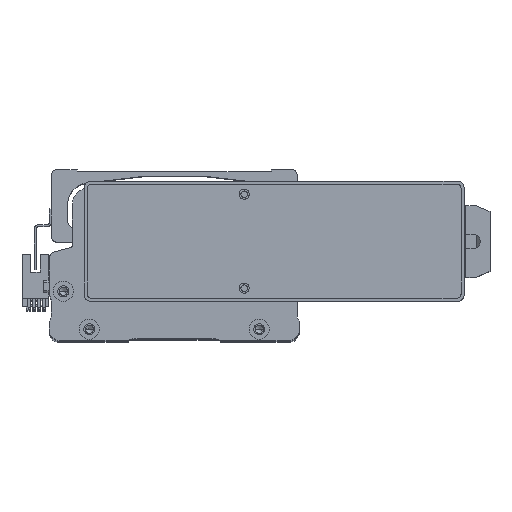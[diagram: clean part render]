
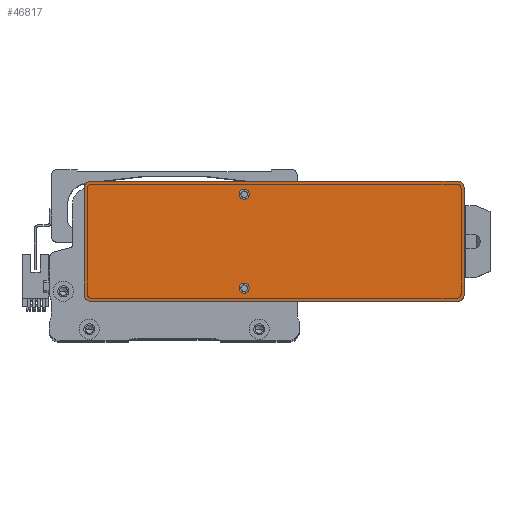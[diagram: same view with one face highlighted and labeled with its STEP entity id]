
A CAD part, top view. The second image highlights one B-rep face of the part: STEP entity #46817.
In plain terms, the highlighted planar face has unit normal (0, 0, 1) as drawn and (0, 0, -1) by its records, which use the part's own axes.
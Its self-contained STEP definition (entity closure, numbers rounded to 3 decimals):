
#416 = ORIENTED_EDGE ( 'NONE', *, *, #46741, .F. ) ;
#505 = LINE ( 'NONE', #41059, #55560 ) ;
#1887 = EDGE_LOOP ( 'NONE', ( #43734, #15833, #68502, #22342, #416, #38039, #27352, #52867 ) ) ;
#2065 = EDGE_CURVE ( 'NONE', #47108, #20162, #505, .T. ) ;
#4045 = CARTESIAN_POINT ( 'NONE',  ( 95., 27., 0. ) ) ;
#4075 = CIRCLE ( 'NONE', #60050, 3. ) ;
#4440 = CIRCLE ( 'NONE', #34104, 2.5 ) ;
#4656 = CARTESIAN_POINT ( 'NONE',  ( 95., 30., 0. ) ) ;
#6669 = LINE ( 'NONE', #65492, #20634 ) ;
#7952 = CARTESIAN_POINT ( 'NONE',  ( -92., -30., 0. ) ) ;
#8095 = EDGE_CURVE ( 'NONE', #63179, #68808, #6669, .T. ) ;
#11377 = DIRECTION ( 'NONE',  ( 0., 0., -1. ) ) ;
#11428 = CARTESIAN_POINT ( 'NONE',  ( -12.5, 23.5, 0. ) ) ;
#11706 = AXIS2_PLACEMENT_3D ( 'NONE', #47898, #12229, #53893 ) ;
#12229 = DIRECTION ( 'NONE',  ( 0., 0., -1. ) ) ;
#14307 = DIRECTION ( 'NONE',  ( 0., 0., -1. ) ) ;
#14617 = CARTESIAN_POINT ( 'NONE',  ( -17.5, -23.5, 0. ) ) ;
#15412 = VERTEX_POINT ( 'NONE', #18407 ) ;
#15475 = VECTOR ( 'NONE', #20276, 1000. ) ;
#15682 = CARTESIAN_POINT ( 'NONE',  ( -15., -23.5, 0. ) ) ;
#15833 = ORIENTED_EDGE ( 'NONE', *, *, #42345, .T. ) ;
#17045 = CARTESIAN_POINT ( 'NONE',  ( -95., -27., 0. ) ) ;
#17083 = CARTESIAN_POINT ( 'NONE',  ( -92., 30., 0. ) ) ;
#17642 = CARTESIAN_POINT ( 'NONE',  ( 92., 30., 0. ) ) ;
#18275 = VERTEX_POINT ( 'NONE', #17045 ) ;
#18407 = CARTESIAN_POINT ( 'NONE',  ( -95., 27., 0. ) ) ;
#19195 = DIRECTION ( 'NONE',  ( 0., 0., -1. ) ) ;
#19636 = EDGE_CURVE ( 'NONE', #26798, #31334, #23585, .T. ) ;
#20162 = VERTEX_POINT ( 'NONE', #4045 ) ;
#20276 = DIRECTION ( 'NONE',  ( 0., -1., 0. ) ) ;
#20634 = VECTOR ( 'NONE', #59475, 1000. ) ;
#20799 = CARTESIAN_POINT ( 'NONE',  ( 0., 0., 0. ) ) ;
#21667 = DIRECTION ( 'NONE',  ( -1., 0., 0. ) ) ;
#22342 = ORIENTED_EDGE ( 'NONE', *, *, #39237, .T. ) ;
#23585 = LINE ( 'NONE', #4656, #37576 ) ;
#26505 = DIRECTION ( 'NONE',  ( 0., 0., -1. ) ) ;
#26655 = VERTEX_POINT ( 'NONE', #63794 ) ;
#26798 = VERTEX_POINT ( 'NONE', #17642 ) ;
#27289 = CARTESIAN_POINT ( 'NONE',  ( 92., -30., 0. ) ) ;
#27352 = ORIENTED_EDGE ( 'NONE', *, *, #19636, .F. ) ;
#30661 = CIRCLE ( 'NONE', #37595, 2.5 ) ;
#31321 = LINE ( 'NONE', #61739, #15475 ) ;
#31334 = VERTEX_POINT ( 'NONE', #17083 ) ;
#31361 = CARTESIAN_POINT ( 'NONE',  ( -15., 23.5, 0. ) ) ;
#31791 = EDGE_CURVE ( 'NONE', #26655, #62146, #30661, .T. ) ;
#32232 = CARTESIAN_POINT ( 'NONE',  ( -92., -27., 0. ) ) ;
#32522 = EDGE_CURVE ( 'NONE', #62146, #26655, #54260, .T. ) ;
#34104 = AXIS2_PLACEMENT_3D ( 'NONE', #62253, #26505, #68246 ) ;
#34780 = AXIS2_PLACEMENT_3D ( 'NONE', #31361, #73132, #37367 ) ;
#35939 = AXIS2_PLACEMENT_3D ( 'NONE', #50008, #14307, #55990 ) ;
#36285 = AXIS2_PLACEMENT_3D ( 'NONE', #54906, #19195, #60939 ) ;
#37367 = DIRECTION ( 'NONE',  ( -1., 0., 0. ) ) ;
#37576 = VECTOR ( 'NONE', #52346, 1000. ) ;
#37595 = AXIS2_PLACEMENT_3D ( 'NONE', #15682, #57365, #21667 ) ;
#38039 = ORIENTED_EDGE ( 'NONE', *, *, #73939, .T. ) ;
#38234 = DIRECTION ( 'NONE',  ( 1., 0., 0. ) ) ;
#38760 = DIRECTION ( 'NONE',  ( 1., 0., 0. ) ) ;
#39237 = EDGE_CURVE ( 'NONE', #63179, #18275, #4075, .T. ) ;
#41059 = CARTESIAN_POINT ( 'NONE',  ( 95., -30., 0. ) ) ;
#41086 = ORIENTED_EDGE ( 'NONE', *, *, #56199, .F. ) ;
#42345 = EDGE_CURVE ( 'NONE', #47108, #68808, #42846, .T. ) ;
#42846 = CIRCLE ( 'NONE', #36285, 3. ) ;
#43734 = ORIENTED_EDGE ( 'NONE', *, *, #2065, .F. ) ;
#44840 = CIRCLE ( 'NONE', #51408, 3. ) ;
#46741 = EDGE_CURVE ( 'NONE', #15412, #18275, #31321, .T. ) ;
#46817 = ADVANCED_FACE ( 'NONE', ( #57410, #73341, #59289 ), #50495, .F. ) ;
#47086 = CARTESIAN_POINT ( 'NONE',  ( -92., 27., 0. ) ) ;
#47108 = VERTEX_POINT ( 'NONE', #65878 ) ;
#47898 = CARTESIAN_POINT ( 'NONE',  ( -15., -23.5, 0. ) ) ;
#48336 = ORIENTED_EDGE ( 'NONE', *, *, #68694, .F. ) ;
#49053 = AXIS2_PLACEMENT_3D ( 'NONE', #20799, #74561, #38760 ) ;
#50008 = CARTESIAN_POINT ( 'NONE',  ( 92., 27., 0. ) ) ;
#50444 = ORIENTED_EDGE ( 'NONE', *, *, #31791, .F. ) ;
#50495 = PLANE ( 'NONE',  #49053 ) ;
#51408 = AXIS2_PLACEMENT_3D ( 'NONE', #47086, #11377, #53068 ) ;
#52346 = DIRECTION ( 'NONE',  ( -1., 0., 0. ) ) ;
#52867 = ORIENTED_EDGE ( 'NONE', *, *, #59862, .T. ) ;
#52924 = ORIENTED_EDGE ( 'NONE', *, *, #32522, .F. ) ;
#53068 = DIRECTION ( 'NONE',  ( 1., 0., 0. ) ) ;
#53893 = DIRECTION ( 'NONE',  ( -1., 0., 0. ) ) ;
#54260 = CIRCLE ( 'NONE', #11706, 2.5 ) ;
#54906 = CARTESIAN_POINT ( 'NONE',  ( 92., -27., 0. ) ) ;
#55560 = VECTOR ( 'NONE', #58781, 1000. ) ;
#55990 = DIRECTION ( 'NONE',  ( 1., 0., 0. ) ) ;
#56199 = EDGE_CURVE ( 'NONE', #61915, #57316, #56611, .T. ) ;
#56379 = EDGE_LOOP ( 'NONE', ( #48336, #41086 ) ) ;
#56611 = CIRCLE ( 'NONE', #34780, 2.5 ) ;
#57316 = VERTEX_POINT ( 'NONE', #76945 ) ;
#57365 = DIRECTION ( 'NONE',  ( 0., 0., -1. ) ) ;
#57410 = FACE_BOUND ( 'NONE', #56379, .T. ) ;
#58580 = CIRCLE ( 'NONE', #35939, 3. ) ;
#58781 = DIRECTION ( 'NONE',  ( 0., 1., 0. ) ) ;
#59289 = FACE_BOUND ( 'NONE', #71206, .T. ) ;
#59475 = DIRECTION ( 'NONE',  ( 1., 0., 0. ) ) ;
#59862 = EDGE_CURVE ( 'NONE', #26798, #20162, #58580, .T. ) ;
#60050 = AXIS2_PLACEMENT_3D ( 'NONE', #32232, #74009, #38234 ) ;
#60939 = DIRECTION ( 'NONE',  ( 1., 0., 0. ) ) ;
#61739 = CARTESIAN_POINT ( 'NONE',  ( -95., -30., 0. ) ) ;
#61915 = VERTEX_POINT ( 'NONE', #11428 ) ;
#62146 = VERTEX_POINT ( 'NONE', #14617 ) ;
#62253 = CARTESIAN_POINT ( 'NONE',  ( -15., 23.5, 0. ) ) ;
#63179 = VERTEX_POINT ( 'NONE', #7952 ) ;
#63794 = CARTESIAN_POINT ( 'NONE',  ( -12.5, -23.5, 0. ) ) ;
#65492 = CARTESIAN_POINT ( 'NONE',  ( 95., -30., 0. ) ) ;
#65878 = CARTESIAN_POINT ( 'NONE',  ( 95., -27., 0. ) ) ;
#68246 = DIRECTION ( 'NONE',  ( -1., 0., 0. ) ) ;
#68502 = ORIENTED_EDGE ( 'NONE', *, *, #8095, .F. ) ;
#68694 = EDGE_CURVE ( 'NONE', #57316, #61915, #4440, .T. ) ;
#68808 = VERTEX_POINT ( 'NONE', #27289 ) ;
#71206 = EDGE_LOOP ( 'NONE', ( #52924, #50444 ) ) ;
#73132 = DIRECTION ( 'NONE',  ( 0., 0., -1. ) ) ;
#73341 = FACE_OUTER_BOUND ( 'NONE', #1887, .T. ) ;
#73939 = EDGE_CURVE ( 'NONE', #15412, #31334, #44840, .T. ) ;
#74009 = DIRECTION ( 'NONE',  ( 0., 0., -1. ) ) ;
#74561 = DIRECTION ( 'NONE',  ( 0., 0., 1. ) ) ;
#76945 = CARTESIAN_POINT ( 'NONE',  ( -17.5, 23.5, 0. ) ) ;
